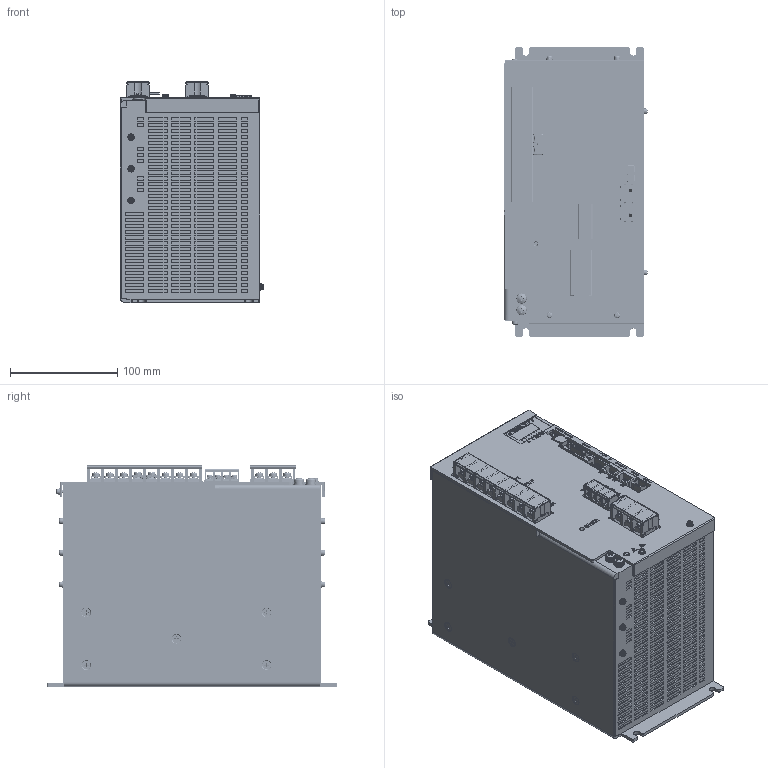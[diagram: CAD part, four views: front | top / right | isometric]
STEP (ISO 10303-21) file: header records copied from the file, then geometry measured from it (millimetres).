
FILE_DESCRIPTION (( 'STEP AP203' ), '1' );
FILE_NAME ('NCR-VD_332#SX-008610-00-01.STEP', '2025-11-25T03:59:42', ( '' ), ( '' ), 'SwSTEP 2.0', 'SolidWorks 2024', '' );
FILE_SCHEMA (( 'CONFIG_CONTROL_DESIGN' ));
Products named in the file (1): NCR-VD_332#SX-008610-00-01
Bounding box: 133.45 x 270 x 205.8 mm (x, y, z)
Volume: 5966566.6 mm3; surface area: 288784.8 mm2
Topology: 4 solids, 70 shells, 10386 faces, 28733 edges, 18968 vertices
Faces by surface type: plane 8570, cylinder 999, bspline 527, cone 202, torus 58, sphere 30
Entity records: 354468 total; most frequent: CARTESIAN_POINT 90854, ORIENTED_EDGE 57434, DIRECTION 49485, EDGE_CURVE 28717, VECTOR 23935, LINE 23935, VERTEX_POINT 18968, AXIS2_PLACEMENT_3D 12775
